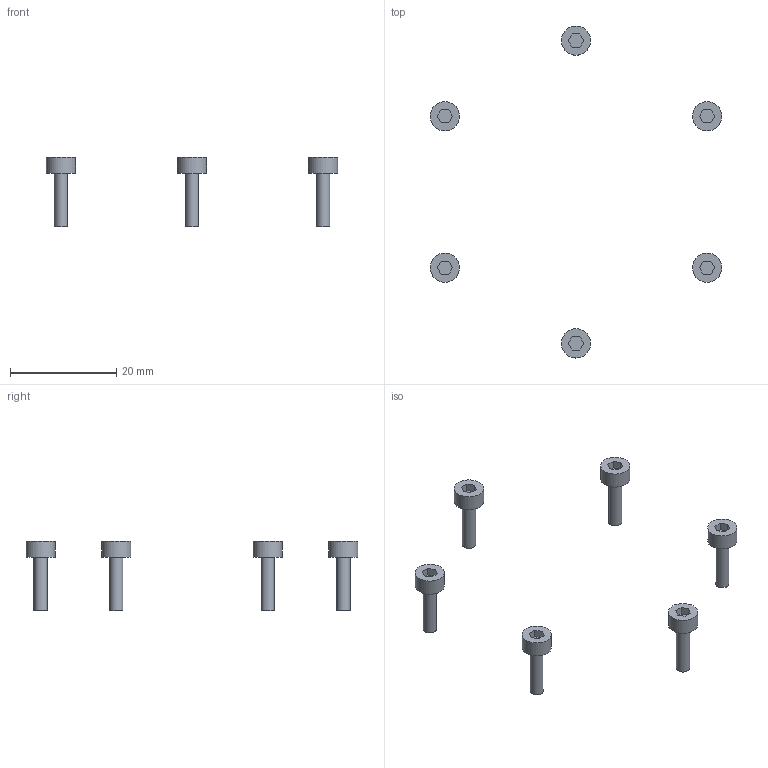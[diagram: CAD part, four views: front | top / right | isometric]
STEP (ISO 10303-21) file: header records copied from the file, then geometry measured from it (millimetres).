
FILE_DESCRIPTION(('Open CASCADE Model'),'2;1');
FILE_NAME('Open CASCADE Shape Model','2026-09-23T04:43:37',('Author'),( 'Open CASCADE'),'Open CASCADE STEP processor 7.9','Open CASCADE 7.9' ,'Unknown');
FILE_SCHEMA(('AUTOMOTIVE_DESIGN { 1 0 10303 214 1 1 1 1 }'));
Length unit declared in the file: millimetre
Products named in the file (7): Open CASCADE STEP translator 7.9 5; Open CASCADE STEP translator 7.9 5.1; Open CASCADE STEP translator 7.9 5.2; Open CASCADE STEP translator 7.9 5.3; Open CASCADE STEP translator 7.9 5.4; Open CASCADE STEP translator 7.9 5.5; Open CASCADE STEP translator 7.9 5.6
Assembly tree (6 placements, depth 2):
  Open CASCADE STEP translator 7.9 5
    Open CASCADE STEP translator 7.9 5.1
    Open CASCADE STEP translator 7.9 5.2
    Open CASCADE STEP translator 7.9 5.3
    Open CASCADE STEP translator 7.9 5.4
    Open CASCADE STEP translator 7.9 5.5
    Open CASCADE STEP translator 7.9 5.6
Bounding box: 54.86 x 62.5 x 13 mm (x, y, z)
Volume: 673.5 mm3; surface area: 1145.3 mm2
Topology: 6 solids, 6 shells, 72 faces, 144 edges, 96 vertices
Faces by surface type: plane 60, cylinder 12
Full cylindrical faces by diameter (mm): 2.5 x6, 5.5 x6
Entity records: 3832 total; most frequent: DIRECTION 614, CARTESIAN_POINT 607, LINE 384, VECTOR 384, ORIENTED_EDGE 288, PCURVE 288, DEFINITIONAL_REPRESENTATION 288, EDGE_CURVE 144
